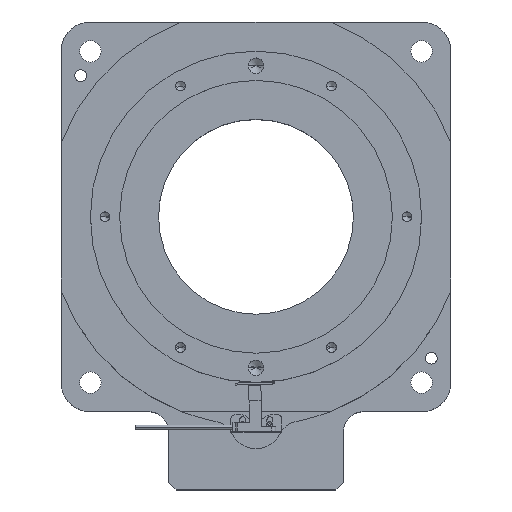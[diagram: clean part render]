
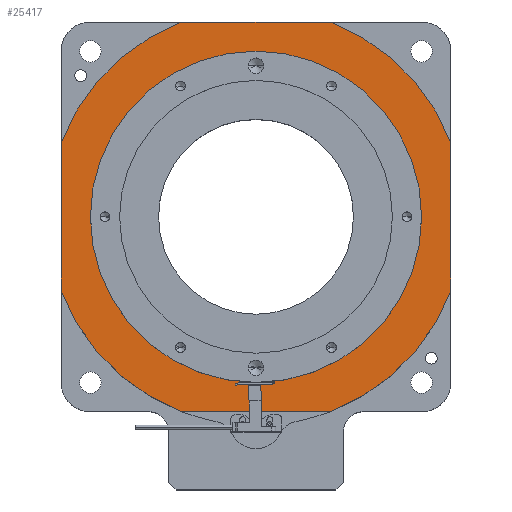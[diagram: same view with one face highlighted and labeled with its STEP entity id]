
A CAD part, top view. The second image highlights one B-rep face of the part: STEP entity #25417.
In plain terms, the highlighted planar face has unit normal (0, 0, 1).
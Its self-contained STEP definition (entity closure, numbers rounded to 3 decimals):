
#432 = CARTESIAN_POINT ( 'NONE',  ( -86.786, -46.664, 40.6 ) ) ;
#491 = AXIS2_PLACEMENT_3D ( 'NONE', #15516, #22118, #20123 ) ;
#637 = CARTESIAN_POINT ( 'NONE',  ( 98.214, -8.598, 40.6 ) ) ;
#1065 = EDGE_CURVE ( 'NONE', #17984, #17701, #21190, .T. ) ;
#1279 = VERTEX_POINT ( 'NONE', #6488 ) ;
#2330 = DIRECTION ( 'NONE',  ( 1., 0., 0. ) ) ;
#2486 = AXIS2_PLACEMENT_3D ( 'NONE', #11085, #19716, #22295 ) ;
#2606 = ORIENTED_EDGE ( 'NONE', *, *, #25277, .T. ) ;
#3051 = DIRECTION ( 'NONE',  ( 0., 0., 1. ) ) ;
#3381 = CIRCLE ( 'NONE', #2486, 107. ) ;
#3792 = ORIENTED_EDGE ( 'NONE', *, *, #9908, .F. ) ;
#4631 = CARTESIAN_POINT ( 'NONE',  ( -86.786, 76.402, 40.6 ) ) ;
#5114 = CIRCLE ( 'NONE', #21697, 107. ) ;
#5490 = VECTOR ( 'NONE', #23612, 1000. ) ;
#5915 = CARTESIAN_POINT ( 'NONE',  ( -71.786, 91.402, 40.6 ) ) ;
#5930 = EDGE_CURVE ( 'NONE', #17701, #13669, #3381, .T. ) ;
#5944 = CARTESIAN_POINT ( 'NONE',  ( -24.852, 91.402, 40.6 ) ) ;
#5965 = DIRECTION ( 'NONE',  ( 0., 0., 1. ) ) ;
#6033 = AXIS2_PLACEMENT_3D ( 'NONE', #26931, #26641, #6718 ) ;
#6106 = DIRECTION ( 'NONE',  ( 1., 0., 0. ) ) ;
#6488 = CARTESIAN_POINT ( 'NONE',  ( -86.786, 29.467, 40.6 ) ) ;
#6532 = PLANE ( 'NONE',  #8791 ) ;
#6718 = DIRECTION ( 'NONE',  ( 1., 0., 0. ) ) ;
#6977 = DIRECTION ( 'NONE',  ( 1., 0., 0. ) ) ;
#7360 = ORIENTED_EDGE ( 'NONE', *, *, #25961, .F. ) ;
#7392 = CARTESIAN_POINT ( 'NONE',  ( 13.214, -28.598, 40.6 ) ) ;
#7663 = DIRECTION ( 'NONE',  ( -1., 0., 0. ) ) ;
#8717 = FACE_BOUND ( 'NONE', #13481, .T. ) ;
#8791 = AXIS2_PLACEMENT_3D ( 'NONE', #7392, #3051, #9851 ) ;
#9851 = DIRECTION ( 'NONE',  ( 1., 0., 0. ) ) ;
#9908 = EDGE_CURVE ( 'NONE', #20470, #16172, #27852, .T. ) ;
#10316 = ORIENTED_EDGE ( 'NONE', *, *, #5930, .T. ) ;
#10385 = EDGE_CURVE ( 'NONE', #27359, #11310, #26736, .T. ) ;
#10539 = CARTESIAN_POINT ( 'NONE',  ( 113.214, 76.402, 40.6 ) ) ;
#11085 = CARTESIAN_POINT ( 'NONE',  ( 13.214, -8.598, 40.6 ) ) ;
#11310 = VERTEX_POINT ( 'NONE', #13920 ) ;
#12112 = VECTOR ( 'NONE', #18762, 1000. ) ;
#12551 = CIRCLE ( 'NONE', #19448, 107. ) ;
#13020 = CARTESIAN_POINT ( 'NONE',  ( 13.214, -8.598, 40.6 ) ) ;
#13207 = ORIENTED_EDGE ( 'NONE', *, *, #14672, .T. ) ;
#13405 = CARTESIAN_POINT ( 'NONE',  ( 113.214, 29.467, 40.6 ) ) ;
#13481 = EDGE_LOOP ( 'NONE', ( #23442, #7360 ) ) ;
#13579 = EDGE_CURVE ( 'NONE', #28523, #1279, #23555, .T. ) ;
#13669 = VERTEX_POINT ( 'NONE', #27265 ) ;
#13920 = CARTESIAN_POINT ( 'NONE',  ( -71.786, -8.598, 40.6 ) ) ;
#14672 = EDGE_CURVE ( 'NONE', #13669, #28523, #19037, .T. ) ;
#15290 = CARTESIAN_POINT ( 'NONE',  ( 51.28, -108.598, 40.6 ) ) ;
#15516 = CARTESIAN_POINT ( 'NONE',  ( 13.214, -8.598, 40.6 ) ) ;
#15846 = VECTOR ( 'NONE', #7663, 1000. ) ;
#16172 = VERTEX_POINT ( 'NONE', #21943 ) ;
#17504 = FACE_OUTER_BOUND ( 'NONE', #23771, .T. ) ;
#17701 = VERTEX_POINT ( 'NONE', #13405 ) ;
#17984 = VERTEX_POINT ( 'NONE', #25279 ) ;
#18466 = CIRCLE ( 'NONE', #6033, 85. ) ;
#18762 = DIRECTION ( 'NONE',  ( 0., 1., 0. ) ) ;
#19013 = CARTESIAN_POINT ( 'NONE',  ( -50.638, -108.598, 40.6 ) ) ;
#19037 = LINE ( 'NONE', #5915, #15846 ) ;
#19178 = ORIENTED_EDGE ( 'NONE', *, *, #26242, .T. ) ;
#19448 = AXIS2_PLACEMENT_3D ( 'NONE', #22386, #26615, #6977 ) ;
#19716 = DIRECTION ( 'NONE',  ( 0., 0., 1. ) ) ;
#19777 = EDGE_CURVE ( 'NONE', #23549, #16172, #12551, .T. ) ;
#20123 = DIRECTION ( 'NONE',  ( 1., 0., 0. ) ) ;
#20213 = LINE ( 'NONE', #4631, #23046 ) ;
#20470 = VERTEX_POINT ( 'NONE', #15290 ) ;
#20528 = ORIENTED_EDGE ( 'NONE', *, *, #19777, .T. ) ;
#21190 = LINE ( 'NONE', #10539, #12112 ) ;
#21697 = AXIS2_PLACEMENT_3D ( 'NONE', #23411, #5965, #6106 ) ;
#21943 = CARTESIAN_POINT ( 'NONE',  ( -24.852, -108.598, 40.6 ) ) ;
#22118 = DIRECTION ( 'NONE',  ( 0., 0., 1. ) ) ;
#22295 = DIRECTION ( 'NONE',  ( 1., 0., 0. ) ) ;
#22386 = CARTESIAN_POINT ( 'NONE',  ( 13.214, -8.598, 40.6 ) ) ;
#23046 = VECTOR ( 'NONE', #26592, 1000. ) ;
#23411 = CARTESIAN_POINT ( 'NONE',  ( 13.214, -8.598, 40.6 ) ) ;
#23442 = ORIENTED_EDGE ( 'NONE', *, *, #10385, .F. ) ;
#23549 = VERTEX_POINT ( 'NONE', #432 ) ;
#23555 = CIRCLE ( 'NONE', #27296, 107. ) ;
#23612 = DIRECTION ( 'NONE',  ( -1., 0., 0. ) ) ;
#23771 = EDGE_LOOP ( 'NONE', ( #3792, #19178, #24704, #10316, #13207, #28374, #2606, #20528 ) ) ;
#24704 = ORIENTED_EDGE ( 'NONE', *, *, #1065, .T. ) ;
#25277 = EDGE_CURVE ( 'NONE', #1279, #23549, #20213, .T. ) ;
#25279 = CARTESIAN_POINT ( 'NONE',  ( 113.214, -46.664, 40.6 ) ) ;
#25417 = ADVANCED_FACE ( 'NONE', ( #8717, #17504 ), #6532, .T. ) ;
#25961 = EDGE_CURVE ( 'NONE', #11310, #27359, #18466, .T. ) ;
#26242 = EDGE_CURVE ( 'NONE', #20470, #17984, #5114, .T. ) ;
#26592 = DIRECTION ( 'NONE',  ( 0., -1., 0. ) ) ;
#26615 = DIRECTION ( 'NONE',  ( 0., 0., 1. ) ) ;
#26641 = DIRECTION ( 'NONE',  ( 0., 0., 1. ) ) ;
#26736 = CIRCLE ( 'NONE', #491, 85. ) ;
#26931 = CARTESIAN_POINT ( 'NONE',  ( 13.214, -8.598, 40.6 ) ) ;
#27265 = CARTESIAN_POINT ( 'NONE',  ( 51.28, 91.402, 40.6 ) ) ;
#27296 = AXIS2_PLACEMENT_3D ( 'NONE', #13020, #28189, #2330 ) ;
#27359 = VERTEX_POINT ( 'NONE', #637 ) ;
#27852 = LINE ( 'NONE', #19013, #5490 ) ;
#28189 = DIRECTION ( 'NONE',  ( 0., 0., 1. ) ) ;
#28374 = ORIENTED_EDGE ( 'NONE', *, *, #13579, .T. ) ;
#28523 = VERTEX_POINT ( 'NONE', #5944 ) ;
